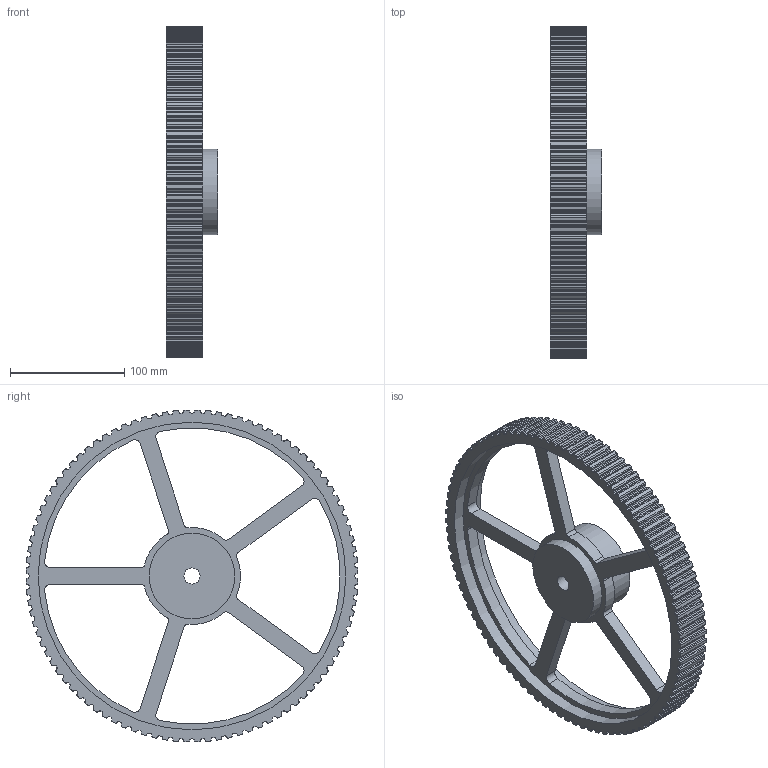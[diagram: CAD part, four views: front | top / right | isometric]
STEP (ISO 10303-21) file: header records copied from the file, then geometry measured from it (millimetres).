
FILE_DESCRIPTION( ( 'STEP AP203' ), '1' );
FILE_NAME( 'C:/Users/Stangenbergd/Documents/CAD_Step/1/18238700.stp', '2020-09-13T18:34:50', ( 'License CC BY-ND 4.0' ), ( 'CADENAS' ), ' ', 'PARTsolutions', ' ' );
FILE_SCHEMA( ( 'CONFIG_CONTROL_DESIGN' ) );
Length unit declared in the file: millimetre
Products named in the file (1): _18238700
Bounding box: 45 x 290.22 x 290.22 mm (x, y, z)
Volume: 581849.9 mm3; surface area: 133295.7 mm2
Topology: 1 solids, 1 shells, 819 faces, 2439 edges, 1626 vertices
Faces by surface type: cylinder 515, plane 304
Full cylindrical faces by diameter (mm): 14 x1, 75 x2, 269 x2
Entity records: 27966 total; most frequent: DIRECTION 5104, CARTESIAN_POINT 4880, ORIENTED_EDGE 4868, EDGE_CURVE 2434, AXIS2_PLACEMENT_3D 1850, VERTEX_POINT 1626, LINE 1404, VECTOR 1404
